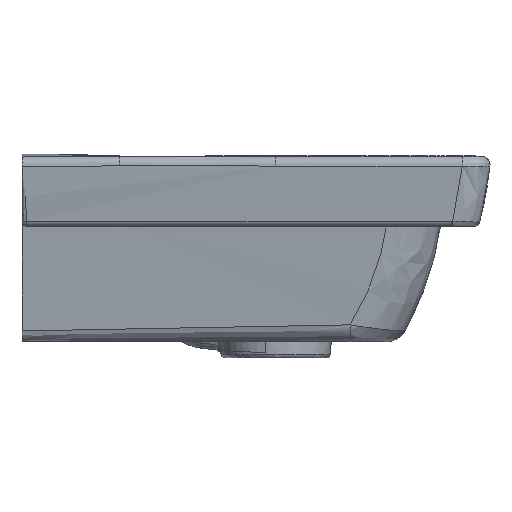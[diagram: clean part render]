
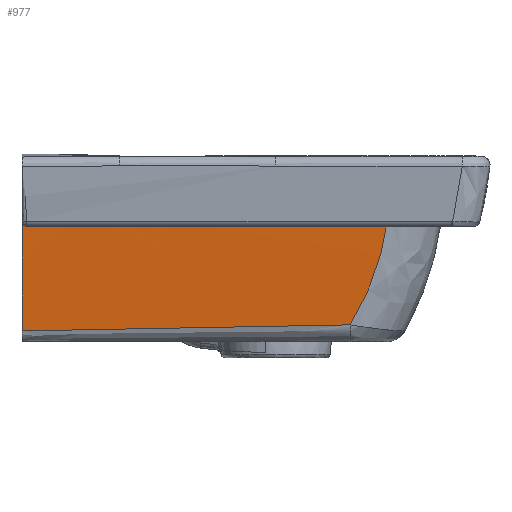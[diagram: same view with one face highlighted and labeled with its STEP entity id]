
A CAD part, left-side view. The second image highlights one B-rep face of the part: STEP entity #977.
In plain terms, the highlighted cylindrical face has radius 2450.17 mm (diameter 4900.33 mm), a partial arc.
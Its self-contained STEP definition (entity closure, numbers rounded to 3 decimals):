
#56=ELLIPSE('',#4653,2463.707,2450.167);
#58=ELLIPSE('',#4664,2463.707,2450.167);
#123=CYLINDRICAL_SURFACE('',#4795,2450.167);
#223=LINE('',#11116,#345);
#225=LINE('',#11184,#347);
#345=VECTOR('',#5107,1.);
#347=VECTOR('',#5129,1.);
#592=CIRCLE('',#4788,2450.167);
#977=ADVANCED_FACE('',(#1310),#123,.T.);
#1310=FACE_OUTER_BOUND('',#1605,.T.);
#1605=EDGE_LOOP('',(#2761,#2762,#2763,#2764,#2765,#2766,#2767,#2768,#2769,
#2770));
#2761=ORIENTED_EDGE('',*,*,#3786,.T.);
#2762=ORIENTED_EDGE('',*,*,#3711,.T.);
#2763=ORIENTED_EDGE('',*,*,#4079,.T.);
#2764=ORIENTED_EDGE('',*,*,#3747,.T.);
#2765=ORIENTED_EDGE('',*,*,#3903,.T.);
#2766=ORIENTED_EDGE('',*,*,#3806,.T.);
#2767=ORIENTED_EDGE('',*,*,#3803,.T.);
#2768=ORIENTED_EDGE('',*,*,#3798,.T.);
#2769=ORIENTED_EDGE('',*,*,#3793,.T.);
#2770=ORIENTED_EDGE('',*,*,#3790,.T.);
#3221=VERTEX_POINT('',#9717);
#3222=VERTEX_POINT('',#9724);
#3243=VERTEX_POINT('',#10215);
#3244=VERTEX_POINT('',#10216);
#3272=VERTEX_POINT('',#11117);
#3273=VERTEX_POINT('',#11121);
#3275=VERTEX_POINT('',#11160);
#3278=VERTEX_POINT('',#11181);
#3281=VERTEX_POINT('',#11191);
#3283=VERTEX_POINT('',#11208);
#3711=EDGE_CURVE('',#3222,#3221,#4309,.T.);
#3747=EDGE_CURVE('',#3243,#3244,#4324,.T.);
#3786=EDGE_CURVE('',#3272,#3222,#223,.T.);
#3790=EDGE_CURVE('',#3273,#3272,#4350,.T.);
#3793=EDGE_CURVE('',#3275,#3273,#56,.T.);
#3798=EDGE_CURVE('',#3278,#3275,#225,.T.);
#3803=EDGE_CURVE('',#3281,#3278,#58,.T.);
#3806=EDGE_CURVE('',#3283,#3281,#4352,.T.);
#3903=EDGE_CURVE('',#3244,#3283,#4393,.T.);
#4079=EDGE_CURVE('',#3221,#3243,#592,.T.);
#4309=B_SPLINE_CURVE_WITH_KNOTS('',3,(#9718,#9719,#9720,#9721,#9722,#9723),
 .UNSPECIFIED.,.F.,.F.,(4,2,4),(0.,0.5,1.),.UNSPECIFIED.);
#4324=B_SPLINE_CURVE_WITH_KNOTS('',3,(#10181,#10182,#10183,#10184,#10185,
#10186,#10187,#10188,#10189,#10190,#10191,#10192,#10193,#10194,#10195,#10196,
#10197,#10198,#10199,#10200,#10201,#10202,#10203,#10204,#10205,#10206,#10207,
#10208,#10209,#10210,#10211,#10212,#10213,#10214),.UNSPECIFIED.,.F.,.F.,
(4,2,1,1,2,2,2,1,1,1,1,1,2,2,1,1,1,1,2,2,1,1,1,4),(0.,0.031,
0.063,0.125,0.25,0.258,
0.26,0.262,0.266,0.281,
0.313,0.375,0.5,0.508,0.516,0.531,0.563,
0.625,0.75,0.766,0.781,0.813,0.875,1.),.UNSPECIFIED.);
#4350=B_SPLINE_CURVE_WITH_KNOTS('',3,(#11135,#11136,#11137,#11138,#11139,
#11140),.UNSPECIFIED.,.F.,.F.,(4,2,4),(0.,0.5,1.),.UNSPECIFIED.);
#4352=B_SPLINE_CURVE_WITH_KNOTS('',3,(#11222,#11223,#11224,#11225),
 .UNSPECIFIED.,.F.,.F.,(4,4),(0.,1.),.UNSPECIFIED.);
#4393=B_SPLINE_CURVE_WITH_KNOTS('',3,(#12232,#12233,#12234,#12235,#12236,
#12237),.UNSPECIFIED.,.F.,.F.,(4,2,4),(0.,0.5,1.),.UNSPECIFIED.);
#4653=AXIS2_PLACEMENT_3D('',#11163,#5118,#5119);
#4664=AXIS2_PLACEMENT_3D('',#11194,#5142,#5143);
#4788=AXIS2_PLACEMENT_3D('',#15480,#5450,#5451);
#4795=AXIS2_PLACEMENT_3D('',#15630,#5472,#5473);
#5107=DIRECTION('',(0.,1.,0.));
#5118=DIRECTION('',(0.,-0.995,-0.105));
#5119=DIRECTION('',(0.,-0.105,0.995));
#5129=DIRECTION('',(0.,1.,0.));
#5142=DIRECTION('',(0.,0.995,-0.105));
#5143=DIRECTION('',(0.,-0.105,-0.995));
#5450=DIRECTION('',(0.,-1.,0.));
#5451=DIRECTION('',(0.,0.,1.));
#5472=DIRECTION('',(0.,-1.,0.));
#5473=DIRECTION('',(0.,0.,-1.));
#9717=CARTESIAN_POINT('',(-146.522,0.,-44.843));
#9718=CARTESIAN_POINT('',(-147.06,-3.,-39.129));
#9719=CARTESIAN_POINT('',(-146.983,-2.278,-39.958));
#9720=CARTESIAN_POINT('',(-146.905,-1.553,-40.789));
#9721=CARTESIAN_POINT('',(-146.727,-0.408,-42.681));
#9722=CARTESIAN_POINT('',(-146.627,0.,-43.742));
#9723=CARTESIAN_POINT('',(-146.522,0.,-44.843));
#9724=CARTESIAN_POINT('',(-147.06,-3.,-39.129));
#10181=CARTESIAN_POINT('',(-139.07,0.,-112.98));
#10182=CARTESIAN_POINT('',(-139.08,-2.913,-112.9));
#10183=CARTESIAN_POINT('',(-139.09,-5.827,-112.819));
#10184=CARTESIAN_POINT('',(-139.109,-11.417,-112.665));
#10185=CARTESIAN_POINT('',(-139.137,-19.53,-112.441));
#10186=CARTESIAN_POINT('',(-139.194,-36.573,-111.975));
#10187=CARTESIAN_POINT('',(-139.231,-47.943,-111.672));
#10188=CARTESIAN_POINT('',(-139.252,-54.466,-111.502));
#10189=CARTESIAN_POINT('',(-139.254,-54.845,-111.493));
#10190=CARTESIAN_POINT('',(-139.255,-55.31,-111.481));
#10191=CARTESIAN_POINT('',(-139.256,-55.503,-111.476));
#10192=CARTESIAN_POINT('',(-139.257,-55.81,-111.468));
#10193=CARTESIAN_POINT('',(-139.258,-56.271,-111.456));
#10194=CARTESIAN_POINT('',(-139.263,-57.956,-111.412));
#10195=CARTESIAN_POINT('',(-139.276,-61.909,-111.311));
#10196=CARTESIAN_POINT('',(-139.302,-70.26,-111.101));
#10197=CARTESIAN_POINT('',(-139.35,-86.315,-110.711));
#10198=CARTESIAN_POINT('',(-139.384,-98.968,-110.428));
#10199=CARTESIAN_POINT('',(-139.406,-107.407,-110.253));
#10200=CARTESIAN_POINT('',(-139.407,-107.895,-110.243));
#10201=CARTESIAN_POINT('',(-139.41,-109.077,-110.219));
#10202=CARTESIAN_POINT('',(-139.414,-110.848,-110.182));
#10203=CARTESIAN_POINT('',(-139.424,-114.954,-110.1));
#10204=CARTESIAN_POINT('',(-139.444,-123.069,-109.943));
#10205=CARTESIAN_POINT('',(-139.478,-138.911,-109.661));
#10206=CARTESIAN_POINT('',(-139.501,-151.824,-109.473));
#10207=CARTESIAN_POINT('',(-139.515,-161.176,-109.36));
#10208=CARTESIAN_POINT('',(-139.516,-162.398,-109.346));
#10209=CARTESIAN_POINT('',(-139.52,-164.713,-109.319));
#10210=CARTESIAN_POINT('',(-139.524,-168.177,-109.281));
#10211=CARTESIAN_POINT('',(-139.534,-176.19,-109.2));
#10212=CARTESIAN_POINT('',(-139.549,-191.939,-109.077));
#10213=CARTESIAN_POINT('',(-139.554,-204.962,-109.034));
#10214=CARTESIAN_POINT('',(-139.554,-213.433,-109.034));
#10215=CARTESIAN_POINT('',(-139.07,0.,-112.98));
#10216=CARTESIAN_POINT('',(-139.554,-213.433,-109.034));
#11116=CARTESIAN_POINT('',(-147.06,0.,-39.129));
#11117=CARTESIAN_POINT('',(-147.06,-36.398,-39.129));
#11121=CARTESIAN_POINT('',(-147.713,-44.355,-31.977));
#11135=CARTESIAN_POINT('',(-147.713,-44.355,-31.977));
#11136=CARTESIAN_POINT('',(-147.538,-44.149,-33.929));
#11137=CARTESIAN_POINT('',(-147.37,-43.212,-35.762));
#11138=CARTESIAN_POINT('',(-147.129,-40.3,-38.384));
#11139=CARTESIAN_POINT('',(-147.06,-38.369,-39.129));
#11140=CARTESIAN_POINT('',(-147.06,-36.398,-39.129));
#11160=CARTESIAN_POINT('',(-147.922,-44.6,-29.646));
#11163=CARTESIAN_POINT('',(2292.608,-67.455,187.448));
#11181=CARTESIAN_POINT('',(-147.922,-232.4,-29.646));
#11184=CARTESIAN_POINT('',(-147.922,0.,-29.646));
#11191=CARTESIAN_POINT('',(-147.713,-232.645,-31.977));
#11194=CARTESIAN_POINT('',(2292.608,-209.545,187.448));
#11208=CARTESIAN_POINT('',(-147.099,-238.045,-38.71));
#11222=CARTESIAN_POINT('',(-147.099,-238.045,-38.71));
#11223=CARTESIAN_POINT('',(-147.188,-235.169,-37.742));
#11224=CARTESIAN_POINT('',(-147.442,-232.964,-34.999));
#11225=CARTESIAN_POINT('',(-147.713,-232.645,-31.977));
#12232=CARTESIAN_POINT('',(-139.554,-213.433,-109.034));
#12233=CARTESIAN_POINT('',(-140.847,-220.032,-98.432));
#12234=CARTESIAN_POINT('',(-142.138,-225.388,-87.275));
#12235=CARTESIAN_POINT('',(-144.698,-233.718,-63.542));
#12236=CARTESIAN_POINT('',(-145.938,-236.568,-51.233));
#12237=CARTESIAN_POINT('',(-147.099,-238.045,-38.71));
#15480=CARTESIAN_POINT('',(2292.608,0.,187.448));
#15630=CARTESIAN_POINT('',(2292.608,0.,187.448));
